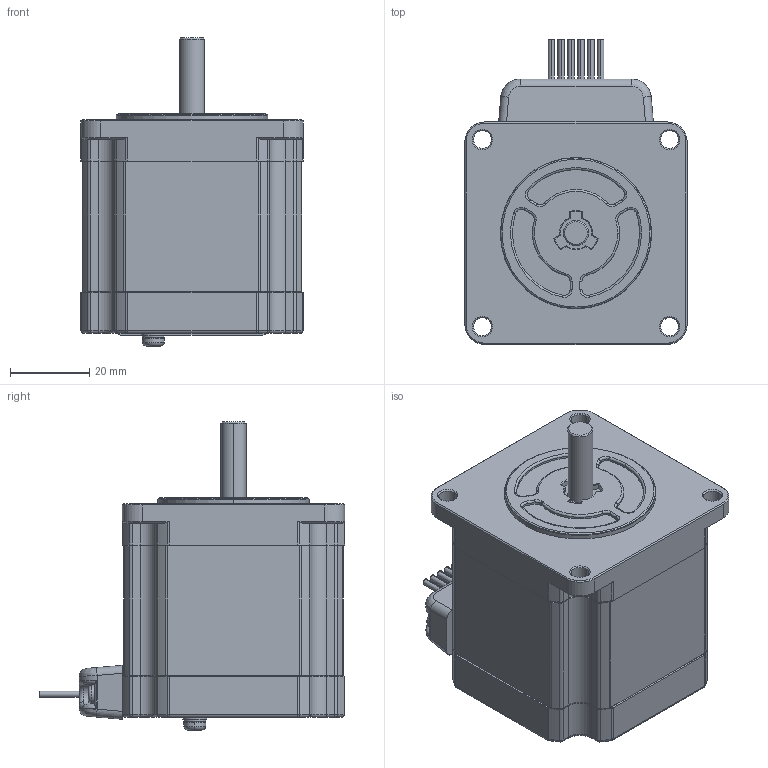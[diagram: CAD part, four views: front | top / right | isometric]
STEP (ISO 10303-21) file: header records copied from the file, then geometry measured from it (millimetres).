
FILE_DESCRIPTION (( 'STEP AP203' ), '1' );
FILE_NAME ('103H7123-6140.STEP', '2014-01-07T02:28:15', ( ' ' ), ( '' ), 'SwSTEP 2.0', 'SolidWorks 2012', '' );
FILE_SCHEMA (( 'CONFIG_CONTROL_DESIGN' ));
Length unit declared in the file: millimetre
Products named in the file (1): 103H7123-6140
Bounding box: 56 x 76.9 x 77.6 mm (x, y, z)
Volume: 159266.4 mm3; surface area: 20076.9 mm2
Topology: 1 solids, 1 shells, 562 faces, 1377 edges, 838 vertices
Faces by surface type: cylinder 207, plane 183, cone 100, torus 64, bspline 8
Entity records: 16904 total; most frequent: CARTESIAN_POINT 3358, DIRECTION 3013, ORIENTED_EDGE 2754, EDGE_CURVE 1377, AXIS2_PLACEMENT_3D 1169, VERTEX_POINT 838, VECTOR 675, LINE 675
